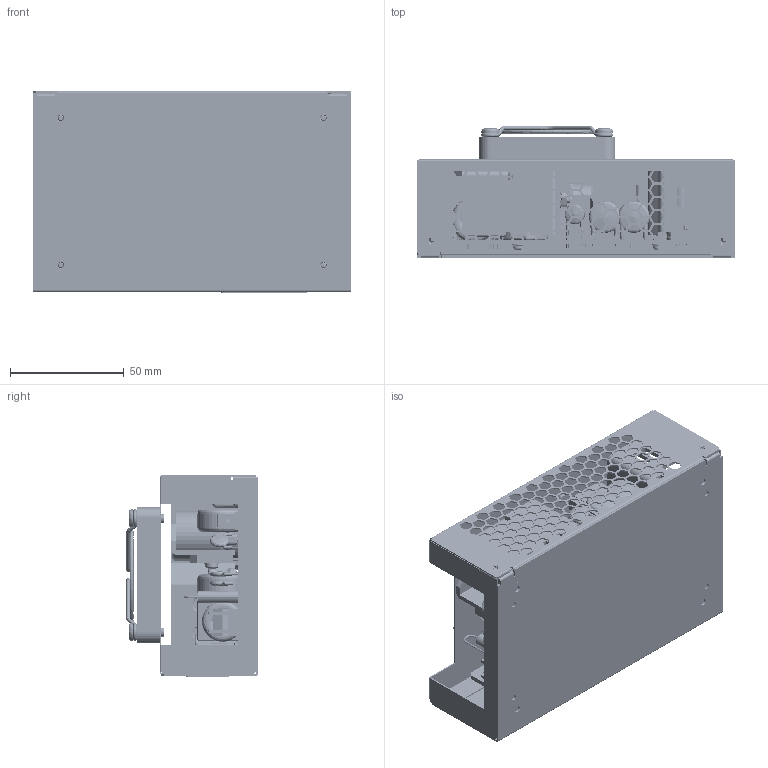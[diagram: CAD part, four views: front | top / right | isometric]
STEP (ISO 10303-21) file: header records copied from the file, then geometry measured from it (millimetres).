
FILE_DESCRIPTION (( 'STEP AP214' ), '1' );
FILE_NAME ('GCS250 TF.STEP', '2014-12-19T13:55:54', ( '' ), ( '' ), 'SwSTEP 2.0', 'SolidWorks 2015', '' );
FILE_SCHEMA (( 'AUTOMOTIVE_DESIGN' ));
Length unit declared in the file: inch
Products named in the file (78): Faston .25 X .032; RES-3W; Fan 60mm x 10mm_FAN 60X10MM; Xfmr_GCS150-15; Conn_MLX_KK100_Hdr_02P; TO92_01; 1001436601; Xfmr_GCS150-14; Conn_MLX_KK100_Hdr_02P-2; Capacitor Film_18x11mm_15 LS_19mm H; Washer_Square_Cone_M3_8mm od_01; Xfmr_GCS150-13; Conn_MLX_KK100_Hdr_02P-1; Inductor Toroid_18.0mm OD_7mm Width; SCREW_PPH_M3_01_8mm; Xfmr_GCS150-12; Inductor Toroid_20.0mm OD; 10013216A0; Xfmr_GCS150-11; Capacitor Disc_0.300 D_0.250 C; CAP FILM_17x5x11MM_15LS; Screw_Flat Head Phillips (Metric)_(1314)_M3 x 8; Xfmr_GCS150-10; Pot_Top adj_Type1_01; Bridge Rectifier_GBU6K_Lead trimed; Xfmr_GCS150-9; Conn_JST_S10B-PHDSS-B_Vertical; Capacitor Disc_0.300 D X .40 LS; Nut_Keps_4-40_Star_01; Xfmr_GCS150-8; Capacitor Elec_08mm D_13mm H; FUSE-0; 1001451001; Xfmr_GCS150-7; Capacitor Elec_10mm D_25mm; CON MLX  .156 06P; FHP_100dg_6-32x.250lg; Xfmr_GCS150-6; Xxmr_1050x1150x1000_12p; CON MLX  .156 3P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
Assembly tree (119 placements, depth 3):
  GCS250 TF
    BASE-1.6H
    SMPS-M2.5  x2
    SO-3.5M3-6ZI  x4
    INSULATOR 10006903
    1001450801
    CON MLX  .156 3P
    CON MLX  .156 06P
    FUSE-0  x2
    Capacitor Disc_0.300 D X .40 LS  x3
    Bridge Rectifier_GBU6K_Lead trimed
    CAP FILM_17x5x11MM_15LS  x3
    Inductor Toroid_20.0mm OD  x2
    Inductor Toroid_18.0mm OD_7mm Width
    Capacitor Film_18x11mm_15 LS_19mm H
    TO92_01  x2
    RES-3W  x2
    Capacitor Elec_8mm D_20mm
    Capacitor Elec_06.3mm D_13mm H
    Capacitor Elec_22mm D_30mm H
    Xfmr_GCS150
      Xfmr_GCS150
      Xfmr_GCS150-1
      Xfmr_GCS150-2
      Xfmr_GCS150-3
      Xfmr_GCS150-4
      Xfmr_GCS150-5
      Xfmr_GCS150-6
      Xfmr_GCS150-7
      Xfmr_GCS150-8
      Xfmr_GCS150-9
      Xfmr_GCS150-10
      Xfmr_GCS150-11
      Xfmr_GCS150-12
      Xfmr_GCS150-13
      Xfmr_GCS150-14
      Xfmr_GCS150-15
      Xfmr_GCS150-16
      Xfmr_GCS150-17
      Xfmr_GCS150-18
      Xfmr_GCS150-19
      Xfmr_GCS150-20
      Xfmr_GCS150-21
      Xfmr_GCS150-22
      Xfmr_GCS150-23
    Xxmr_1050x1150x1000_12p
    Capacitor Elec_10mm D_25mm  x4
    Capacitor Elec_08mm D_13mm H  x2
    Conn_JST_S10B-PHDSS-B_Vertical
    Pot_Top adj_Type1_01
    Capacitor Disc_0.300 D_0.250 C  x2
    Conn_MLX_KK100_Hdr_02P
      Conn_MLX_KK100_Hdr_02P
      Conn_MLX_KK100_Hdr_02P-1
      Conn_MLX_KK100_Hdr_02P-2
    Faston .25 X .032
    Capacitor Disc_0.550 D_0.400 C  x2
    Therm_.350 D X .250 LS
    Screw_Sq Cone_no 4_01_.250  x3
    TO220_3P_01  x5
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Bounding box: 139.7 x 57.88 x 88.6 mm (x, y, z)
Volume: 157351.4 mm3; surface area: 198104 mm2
Topology: 128 solids, 128 shells, 5268 faces, 13460 edges, 8594 vertices
Faces by surface type: plane 2847, cylinder 1384, bspline 595, cone 442
Entity records: 134040 total; most frequent: CARTESIAN_POINT 36255, ORIENTED_EDGE 18692, DIRECTION 17628, EDGE_CURVE 9346, VECTOR 6160, LINE 6160, VERTEX_POINT 6065, AXIS2_PLACEMENT_3D 5734
